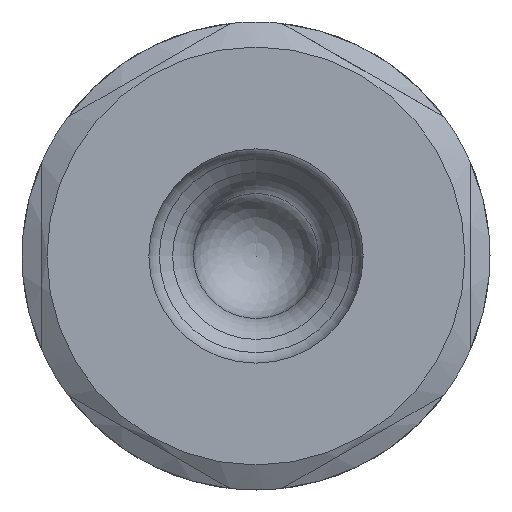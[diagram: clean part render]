
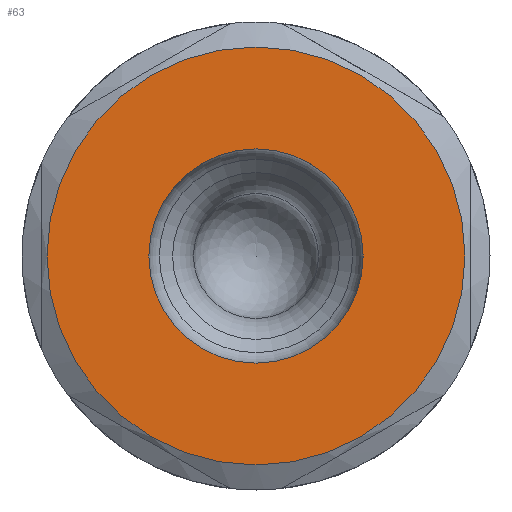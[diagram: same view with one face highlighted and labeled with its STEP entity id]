
A CAD part, left-side view. The second image highlights one B-rep face of the part: STEP entity #63.
In plain terms, the highlighted planar face has unit normal (-1, 0, 0).
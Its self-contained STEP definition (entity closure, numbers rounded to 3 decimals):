
#27=CARTESIAN_POINT('',(-8.,-0.,0.));
#28=DIRECTION('',(-1.,-0.,0.));
#29=DIRECTION('',(0.,0.,1.));
#30=AXIS2_PLACEMENT_3D('',#27,#28,#29);
#31=PLANE('',#30);
#32=CARTESIAN_POINT('',(-8.,-0.,-6.));
#33=VERTEX_POINT('',#32);
#34=CARTESIAN_POINT('',(-8.,-0.,0.));
#35=DIRECTION('',(-1.,-0.,-0.));
#36=DIRECTION('',(0.,0.,-1.));
#37=AXIS2_PLACEMENT_3D('',#34,#35,#36);
#38=CIRCLE('',#37,6.);
#39=EDGE_CURVE('',#33,#33,#38,.T.);
#40=ORIENTED_EDGE('',*,*,#39,.F.);
#41=EDGE_LOOP('',(#40));
#42=FACE_BOUND('',#41,.T.);
#43=CARTESIAN_POINT('',(-8.,0.,-11.7));
#44=VERTEX_POINT('',#43);
#45=CARTESIAN_POINT('',(-8.,-0.,11.7));
#46=VERTEX_POINT('',#45);
#47=CARTESIAN_POINT('',(-8.,-0.,0.));
#48=DIRECTION('',(-1.,-0.,0.));
#49=DIRECTION('',(-0.,0.,-1.));
#50=AXIS2_PLACEMENT_3D('',#47,#48,#49);
#51=CIRCLE('',#50,11.7);
#52=EDGE_CURVE('',#44,#46,#51,.T.);
#53=ORIENTED_EDGE('',*,*,#52,.T.);
#54=CARTESIAN_POINT('',(-8.,-0.,0.));
#55=DIRECTION('',(-1.,-0.,0.));
#56=DIRECTION('',(-0.,0.,-1.));
#57=AXIS2_PLACEMENT_3D('',#54,#55,#56);
#58=CIRCLE('',#57,11.7);
#59=EDGE_CURVE('',#46,#44,#58,.T.);
#60=ORIENTED_EDGE('',*,*,#59,.T.);
#61=EDGE_LOOP('',(#53,#60));
#62=FACE_BOUND('',#61,.T.);
#63=ADVANCED_FACE('',(#42,#62),#31,.T.);
